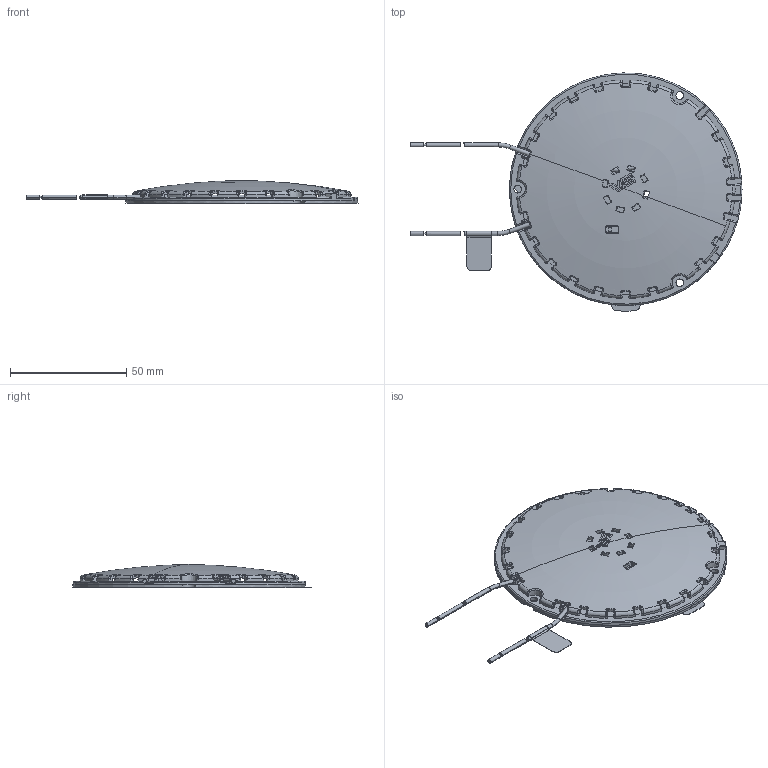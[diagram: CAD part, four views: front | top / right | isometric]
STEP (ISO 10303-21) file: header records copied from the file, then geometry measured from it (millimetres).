
FILE_DESCRIPTION(('Creo Elements/Direct Modeling STEP Export'),'2;1');
FILE_NAME('READYLINE_C10-E_SIDE_CABLE_EXIT.stp','2022-06-09T 7:51:22',(''),(''),'Creo Elements/Direct Modeling STEP processor for AP214 (Solid Model)','Creo Elements/Direct Modeling 20.0E 23-Apr-2019 (C) Parametric Technology GmbH','');
FILE_SCHEMA(('AUTOMOTIVE_DESIGN { 1 0 10303 214 1 1 1 1 }'));
Length unit declared in the file: millimetre
Products named in the file (12): CONNECTOR_STEP; DIFFUSORE_D100; SELECTOR_SWITCH_-_MSS22D18_ST_1.1; CONNECTOR_STEP.1; cavo; cavo.1; cavo_2; cavo_2.1; cavo_2.2; cablaggi; ETICHETTA.1; REDYLINE_C10-E_SIDE_CABLE_EXIT
Assembly tree (11 placements, depth 3):
  REDYLINE_C10-E_SIDE_CABLE_EXIT
    ETICHETTA.1
    cablaggi
      cavo_2.2
      cavo_2.1
      cavo_2
      cavo.1
      cavo
    CONNECTOR_STEP.1
    SELECTOR_SWITCH_-_MSS22D18_ST_1.1
    DIFFUSORE_D100
    CONNECTOR_STEP
Bounding box: 142.8 x 102.46 x 10.06 mm (x, y, z)
Volume: 22903.2 mm3; surface area: 33449.9 mm2
Topology: 9 solids, 18 shells, 1160 faces, 3106 edges, 1950 vertices
Faces by surface type: bspline 424, plane 341, cylinder 240, torus 86, cone 69
Entity records: 71413 total; most frequent: CARTESIAN_POINT 45580, ORIENTED_EDGE 6202, DIRECTION 3567, EDGE_CURVE 3101, VERTEX_POINT 1950, AXIS2_PLACEMENT_3D 1368, B_SPLINE_CURVE_WITH_KNOTS 1244, EDGE_LOOP 1211
